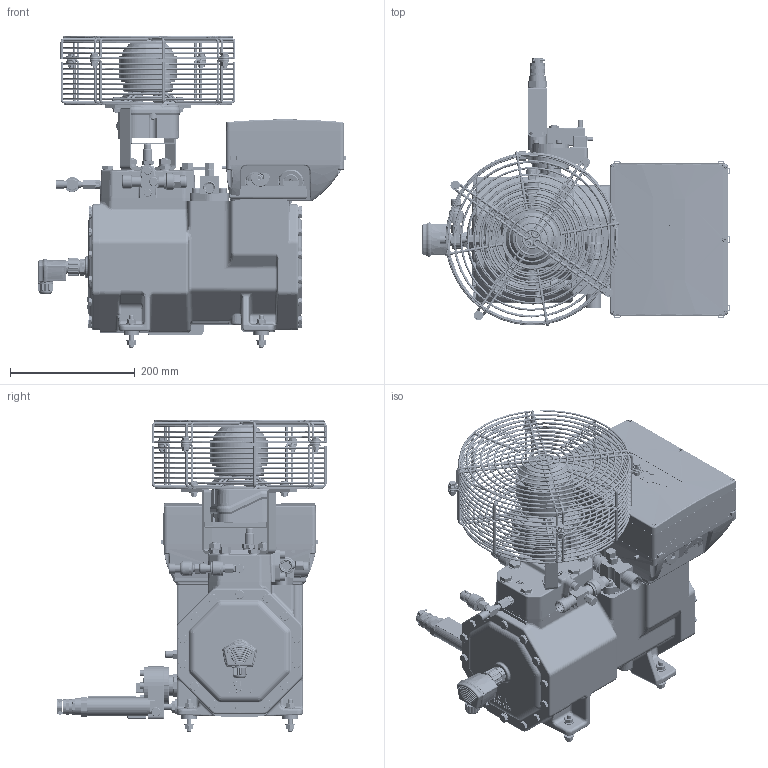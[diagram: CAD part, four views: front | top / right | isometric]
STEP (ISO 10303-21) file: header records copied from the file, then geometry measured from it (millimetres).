
FILE_DESCRIPTION(/* description */ (''),/* implementation_level */ '2;1');
FILE_NAME(/* name */ '2KES-2JES-2HES-2GES-2FES-CPL_ShowAll.stp',/* time_stamp */ '2025-09-19T13:21:56+02:00',/* author */ (''),/* organization */ (''),/* preprocessor_version */ 'ST-DEVELOPER v20',/* originating_system */ 'SIEMENS PLM Software NX2406.8100',/* authorisation */ '');
FILE_SCHEMA (('AUTOMOTIVE_DESIGN { 1 0 10303 214 3 1 1 1 }'));
Products named in the file (31): SHUT-OFF-VALVE-DI12-DAXX-DN10; SHUT-OFF-VALVE-DI16-DAXX-DN12; SHUT-OFF-VALVE-DI22-DAXX-DN20; SHUT-OFF-VALVE-DI14-DA7UNF; 2HMP-ND-COMPLETE; 2HMP-HD-COMPLETE; SCREWED-SENSOR-PT1000-M12-1-LG; TERMINAL-BOX-CE1-2-EXII; EX-PROTECTION-HEATING-CE1; CYLINDER-HEAD-CE1; ELEKTR-TERMINAL-BOX-STANDARD; DAMPER-ELEMENT-COMPL-C1-03; BEARING-COVER-CE1; HOUSING-COVER-C1; BODY-CE1; CYLINDER-HEAD-PT1000; BLIND-FLANGE-HD42; BLIND-FLANGE-HD35; TERMINAL-BOX-CE3-CM-RC-02; BEARING-COVER-OPT-SENSOR-CE1; OIL-LEVEL-MONITORING-OLC-K1; ADDITIONAL-FAN-2KES-2FES; OIL-LEVEL-MONITORING-OLM-IQ-2; CRANKCASE-HEATER-200-260V-120W; CE3-EX-OPTION; 2KESP-2JESP-2HESP-2GESP-2FESP; 2KES-2JES-2HES-2GES-2FES-STD; 2KES-2JES-2HES-2FES-OPTION; APPLICATION-ENVENLOPE-MONITORI; 2KES-2JES-2HES-2GES-2FES-OPT; 2KES-2JES-2HES-2GES-2FES-CPL
Assembly tree (33 placements, depth 4):
  2KES-2JES-2HES-2GES-2FES-CPL
    2KES-2JES-2HES-2GES-2FES-OPT
      CRANKCASE-HEATER-200-260V-120W
      OIL-LEVEL-MONITORING-OLM-IQ-2
      ADDITIONAL-FAN-2KES-2FES
      OIL-LEVEL-MONITORING-OLC-K1
      BEARING-COVER-OPT-SENSOR-CE1
      TERMINAL-BOX-CE3-CM-RC-02
      BLIND-FLANGE-HD35
      BLIND-FLANGE-HD42
      APPLICATION-ENVENLOPE-MONITORI
        SCREWED-SENSOR-PT1000-M12-1-LG
        2HMP-HD-COMPLETE
        2HMP-ND-COMPLETE
      CYLINDER-HEAD-PT1000
      2KES-2JES-2HES-2FES-OPTION
        SHUT-OFF-VALVE-DI14-DA7UNF
        SHUT-OFF-VALVE-DI22-DAXX-DN20
    2KES-2JES-2HES-2GES-2FES-STD
      BODY-CE1
      HOUSING-COVER-C1
      BEARING-COVER-CE1
      DAMPER-ELEMENT-COMPL-C1-03  x4
      ELEKTR-TERMINAL-BOX-STANDARD
      CYLINDER-HEAD-CE1
      2KESP-2JESP-2HESP-2GESP-2FESP
        SHUT-OFF-VALVE-DI16-DAXX-DN12
        SHUT-OFF-VALVE-DI12-DAXX-DN10
    CE3-EX-OPTION
      EX-PROTECTION-HEATING-CE1
      TERMINAL-BOX-CE1-2-EXII
Bounding box: 494.9 x 431.43 x 499.16 mm (x, y, z)
Volume: 23133228.6 mm3; surface area: 1650122.8 mm2
Topology: 26 solids, 50 shells, 10438 faces, 26028 edges, 16099 vertices
Faces by surface type: plane 4181, cylinder 2377, bspline 1265, cone 1251, torus 797, extrusion 340, sphere 227
Full cylindrical faces by diameter (mm): 1 x4, 3 x6, 4 x8, 4.2 x8, 4.3 x8, 5 x8, 5.446 x4, 5.6 x2, 6 x17, 6.2 x2, 6.5 x4, 6.7 x4, 6.8 x9, 7 x1, 7.017 x2, 7.5 x1, 7.794 x16, 7.9 x1, 8 x2, 8.4 x9, 8.5 x6, 9 x11, 9.5 x4, 9.8 x1, 9.838 x4, 10 x10, 10.287 x2, 10.29 x6, 10.333 x1, 10.5 x3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
Entity records: 384460 total; most frequent: CARTESIAN_POINT 151718, ORIENTED_EDGE 48316, DIRECTION 41977, EDGE_CURVE 24158, AXIS2_PLACEMENT_3D 16129, VERTEX_POINT 15477, EDGE_LOOP 12497, ADVANCED_FACE 10248
